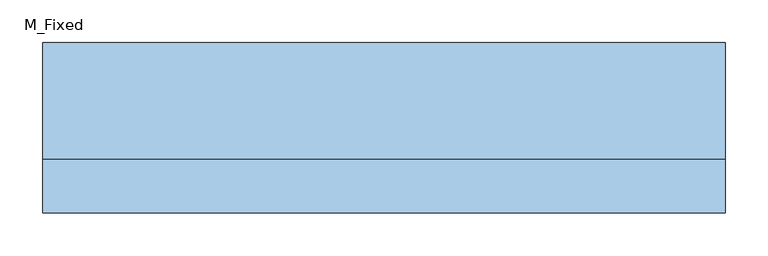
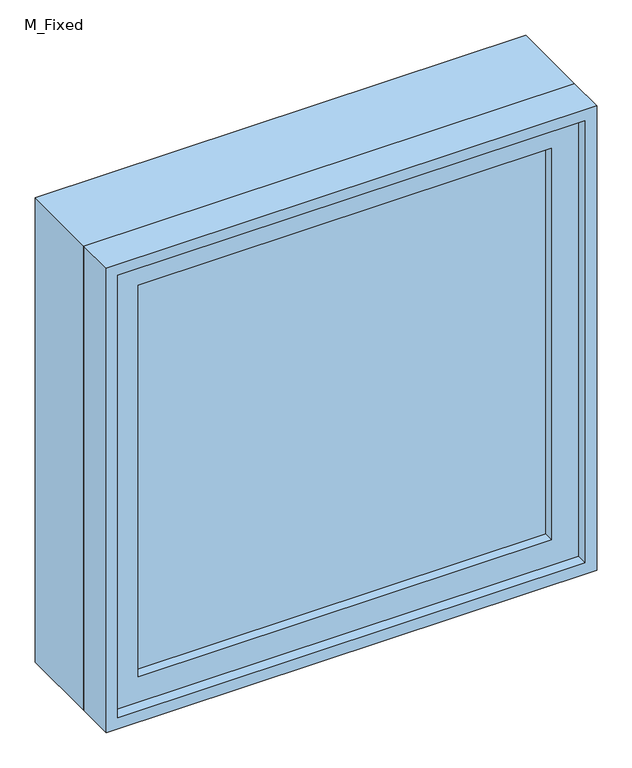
"""IFC4 building model written with IfcOpenShell, lengths in millimetres: window geometry, M_Fixed : ش 2."""

from ifc_helpers import new_model, si_unit, frame, origin, place, context, project, spatial, polyline, outline, extrude, source, transform, mapped, element, save


def m_fixed_a47e0898(model_context):
    return source(origin(), model_context, "Body", "SweptSolid", [
        extrude(outline(polyline([(-337.0, -78.0), (-337.0, -66.0), (337.0, -66.0), (337.0, -78.0), (-337.0, -78.0)])), frame((0.0, 0.0, 1563.0), z_axis=(0.0, 0.0, 1.0), x_axis=(1.0, 0.0, 0.0)), (0.0, 0.0, 1.0), 674.0),
        extrude(outline(polyline([(2281.0, -381.0), (1519.0, -381.0), (1519.0, 381.0), (2281.0, 381.0), (2281.0, -381.0)]), holes=[polyline([(2237.0, -337.0), (2237.0, 337.0), (1563.0, 337.0), (1563.0, -337.0), (2237.0, -337.0)])]), frame((0.0, -94.0, 0.0), z_axis=(0.0, 1.0, 0.0), x_axis=(0.0, 0.0, 1.0)), (0.0, 0.0, 1.0), 44.0),
        extrude(outline(polyline([(2300.0, -400.0), (1500.0, -400.0), (1500.0, 400.0), (2300.0, 400.0), (2300.0, -400.0)]), holes=[polyline([(2281.0, -381.0), (2281.0, 381.0), (1519.0, 381.0), (1519.0, -381.0), (2281.0, -381.0)])]), frame((0.0, -113.0, 0.0), z_axis=(0.0, 1.0, 0.0), x_axis=(0.0, 0.0, 1.0)), (0.0, 0.0, 1.0), 63.0),
        extrude(outline(polyline([(2300.0, -400.0), (1500.0, -400.0), (1500.0, 400.0), (2300.0, 400.0), (2300.0, -400.0)]), holes=[polyline([(2268.0, -368.0), (2268.0, 368.0), (1532.0, 368.0), (1532.0, -368.0), (2268.0, -368.0)])]), frame((0.0, -50.0, 0.0), z_axis=(0.0, 1.0, 0.0), x_axis=(0.0, 0.0, 1.0)), (0.0, 0.0, 1.0), 137.0),
    ])


if __name__ == "__main__":
    model = new_model("IFC4")
    model_context = context("Model", 3, world=origin())
    ifc_project = project(units=[si_unit("LENGTHUNIT", "METRE", prefix="MILLI")], contexts=[model_context])
    site = spatial("IfcSite", under=ifc_project)
    building = spatial("IfcBuilding", under=site)
    placement = place(None, origin())
    m_fixed_shape = m_fixed_a47e0898(model_context)
    element("IfcWindow", 1, ObjectType="M_Fixed : ش 2", at=placement, inside=building, context=model_context, shape_type="MappedRepresentation", body=[
        mapped(m_fixed_shape, transform((0.0, 0.0, 0.0), x_axis=(1.0, 0.0, 0.0), y_axis=(0.0, 1.0, 0.0), z_axis=(0.0, 0.0, 1.0))),
    ])
    save(model, "model.ifc")
